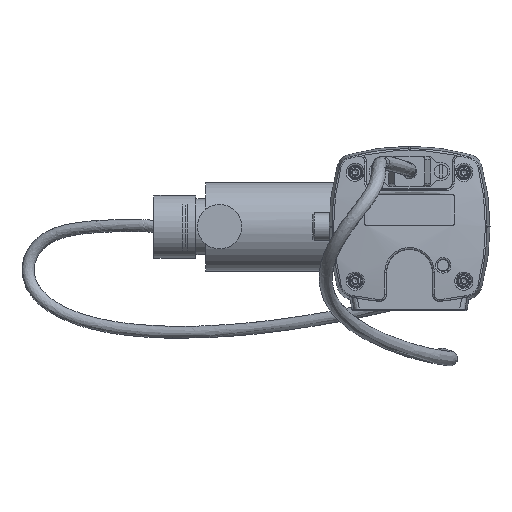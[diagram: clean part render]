
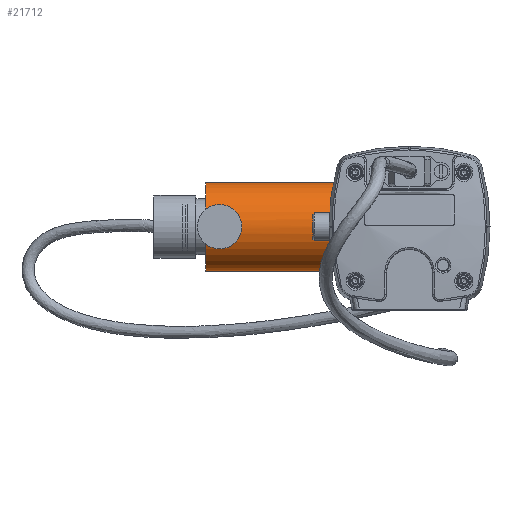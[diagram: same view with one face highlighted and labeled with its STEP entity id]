
A CAD part, left-side view. The second image highlights one B-rep face of the part: STEP entity #21712.
In plain terms, the highlighted cylindrical face has radius 12.65 mm (diameter 25.3 mm), a full revolution.
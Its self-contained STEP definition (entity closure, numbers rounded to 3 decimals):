
#462=B_SPLINE_CURVE_WITH_KNOTS('',3,(#33282,#33283,#33284,#33285,#33286,
#33287,#33288,#33289,#33290,#33291),.UNSPECIFIED.,.F.,.F.,(4,2,2,2,4),(0.,
0.075,0.151,0.226,0.302),
 .UNSPECIFIED.);
#463=B_SPLINE_CURVE_WITH_KNOTS('',3,(#33292,#33293,#33294,#33295,#33296,
#33297,#33298,#33299,#33300,#33301,#33302,#33303,#33304,#33305,#33306,#33307,
#33308,#33309,#33310,#33311,#33312,#33313,#33314,#33315,#33316,#33317),
 .UNSPECIFIED.,.F.,.F.,(4,2,2,2,2,2,2,2,2,2,2,2,4),(0.302,0.377,
0.453,0.528,0.604,0.679,0.755,
0.83,0.906,0.981,1.057,
1.132,1.208),.UNSPECIFIED.);
#1040=FACE_BOUND('',#4116,.T.);
#1416=CIRCLE('',#23204,12.65);
#1417=CIRCLE('',#23205,12.65);
#2274=CYLINDRICAL_SURFACE('',#23203,12.65);
#2887=FACE_OUTER_BOUND('',#4115,.T.);
#4115=EDGE_LOOP('',(#14921,#14922,#14923,#14924));
#4116=EDGE_LOOP('',(#14925,#14926));
#5669=LINE('',#33350,#7089);
#7089=VECTOR('',#26647,12.65);
#8486=VERTEX_POINT('',#33280);
#8487=VERTEX_POINT('',#33281);
#8498=VERTEX_POINT('',#33347);
#8499=VERTEX_POINT('',#33349);
#10911=EDGE_CURVE('',#8486,#8487,#462,.T.);
#10912=EDGE_CURVE('',#8487,#8486,#463,.T.);
#10926=EDGE_CURVE('',#8498,#8498,#1416,.T.);
#10927=EDGE_CURVE('',#8498,#8499,#5669,.T.);
#10928=EDGE_CURVE('',#8499,#8499,#1417,.T.);
#14921=ORIENTED_EDGE('',*,*,#10926,.T.);
#14922=ORIENTED_EDGE('',*,*,#10927,.T.);
#14923=ORIENTED_EDGE('',*,*,#10928,.T.);
#14924=ORIENTED_EDGE('',*,*,#10927,.F.);
#14925=ORIENTED_EDGE('',*,*,#10911,.T.);
#14926=ORIENTED_EDGE('',*,*,#10912,.T.);
#21712=ADVANCED_FACE('',(#2887,#1040),#2274,.T.);
#23203=AXIS2_PLACEMENT_3D('',#33346,#26643,#26644);
#23204=AXIS2_PLACEMENT_3D('',#33348,#26645,#26646);
#23205=AXIS2_PLACEMENT_3D('',#33351,#26648,#26649);
#26643=DIRECTION('center_axis',(0.,-1.,0.));
#26644=DIRECTION('ref_axis',(-1.,0.,0.));
#26645=DIRECTION('center_axis',(0.,1.,0.));
#26646=DIRECTION('ref_axis',(-1.,0.,0.));
#26647=DIRECTION('',(0.,1.,0.));
#26648=DIRECTION('center_axis',(0.,-1.,0.));
#26649=DIRECTION('ref_axis',(-1.,0.,0.));
#33280=CARTESIAN_POINT('',(34.009,34.95,2.));
#33281=CARTESIAN_POINT('',(33.85,32.95,0.));
#33282=CARTESIAN_POINT('Ctrl Pts',(34.009,34.95,2.));
#33283=CARTESIAN_POINT('Ctrl Pts',(34.009,34.698,2.));
#33284=CARTESIAN_POINT('Ctrl Pts',(34.001,34.43,1.95));
#33285=CARTESIAN_POINT('Ctrl Pts',(33.971,33.938,1.745));
#33286=CARTESIAN_POINT('Ctrl Pts',(33.949,33.713,1.592));
#33287=CARTESIAN_POINT('Ctrl Pts',(33.909,33.358,1.237));
#33288=CARTESIAN_POINT('Ctrl Pts',(33.888,33.205,1.012));
#33289=CARTESIAN_POINT('Ctrl Pts',(33.858,33.,0.52));
#33290=CARTESIAN_POINT('Ctrl Pts',(33.85,32.95,0.252));
#33291=CARTESIAN_POINT('Ctrl Pts',(33.85,32.95,0.));
#33292=CARTESIAN_POINT('Ctrl Pts',(33.85,32.95,0.));
#33293=CARTESIAN_POINT('Ctrl Pts',(33.85,32.95,-0.252));
#33294=CARTESIAN_POINT('Ctrl Pts',(33.858,33.,-0.52));
#33295=CARTESIAN_POINT('Ctrl Pts',(33.888,33.205,-1.012));
#33296=CARTESIAN_POINT('Ctrl Pts',(33.909,33.358,-1.237));
#33297=CARTESIAN_POINT('Ctrl Pts',(33.949,33.713,-1.592));
#33298=CARTESIAN_POINT('Ctrl Pts',(33.971,33.938,-1.745));
#33299=CARTESIAN_POINT('Ctrl Pts',(34.001,34.43,-1.95));
#33300=CARTESIAN_POINT('Ctrl Pts',(34.009,34.698,-2.));
#33301=CARTESIAN_POINT('Ctrl Pts',(34.009,35.202,-2.));
#33302=CARTESIAN_POINT('Ctrl Pts',(34.001,35.47,-1.95));
#33303=CARTESIAN_POINT('Ctrl Pts',(33.971,35.962,-1.745));
#33304=CARTESIAN_POINT('Ctrl Pts',(33.949,36.187,-1.592));
#33305=CARTESIAN_POINT('Ctrl Pts',(33.909,36.542,-1.237));
#33306=CARTESIAN_POINT('Ctrl Pts',(33.888,36.695,-1.012));
#33307=CARTESIAN_POINT('Ctrl Pts',(33.858,36.9,-0.52));
#33308=CARTESIAN_POINT('Ctrl Pts',(33.85,36.95,-0.252));
#33309=CARTESIAN_POINT('Ctrl Pts',(33.85,36.95,0.252));
#33310=CARTESIAN_POINT('Ctrl Pts',(33.858,36.9,0.52));
#33311=CARTESIAN_POINT('Ctrl Pts',(33.888,36.695,1.012));
#33312=CARTESIAN_POINT('Ctrl Pts',(33.909,36.542,1.237));
#33313=CARTESIAN_POINT('Ctrl Pts',(33.949,36.187,1.592));
#33314=CARTESIAN_POINT('Ctrl Pts',(33.971,35.962,1.745));
#33315=CARTESIAN_POINT('Ctrl Pts',(34.001,35.47,1.95));
#33316=CARTESIAN_POINT('Ctrl Pts',(34.009,35.202,2.));
#33317=CARTESIAN_POINT('Ctrl Pts',(34.009,34.95,2.));
#33346=CARTESIAN_POINT('Origin',(46.5,38.95,0.));
#33347=CARTESIAN_POINT('',(59.15,0.35,0.));
#33348=CARTESIAN_POINT('Origin',(46.5,0.35,0.));
#33349=CARTESIAN_POINT('',(59.15,38.95,0.));
#33350=CARTESIAN_POINT('',(59.15,38.95,0.));
#33351=CARTESIAN_POINT('Origin',(46.5,38.95,0.));
